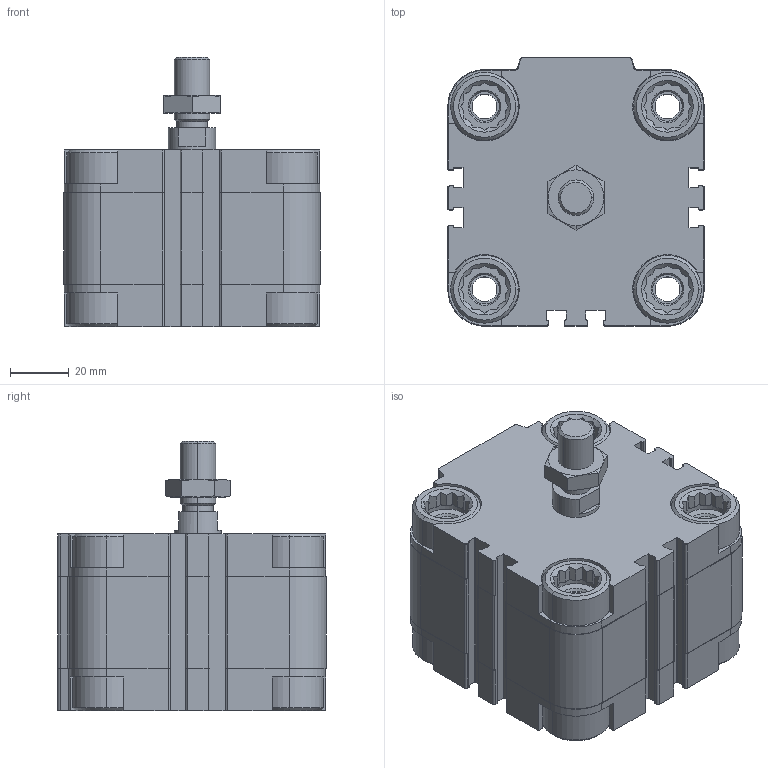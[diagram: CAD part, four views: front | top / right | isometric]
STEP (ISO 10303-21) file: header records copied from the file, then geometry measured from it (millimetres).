
FILE_DESCRIPTION (( 'STEP AP203' ), '1' );
FILE_NAME ('CDVU63-10.STEP', '2020-03-19T11:37:37', ( '' ), ( '' ), 'SwSTEP 2.0', 'SolidWorks 2019', '' );
FILE_SCHEMA (( 'CONFIG_CONTROL_DESIGN' ));
Length unit declared in the file: millimetre
Products named in the file (1): CDVU63-10
Bounding box: 87 x 91 x 91.5 mm (x, y, z)
Volume: 382720.9 mm3; surface area: 79358 mm2
Topology: 3 solids, 3 shells, 627 faces, 1672 edges, 1094 vertices
Faces by surface type: plane 373, cylinder 184, cone 70
Entity records: 20051 total; most frequent: CARTESIAN_POINT 4314, ORIENTED_EDGE 3336, DIRECTION 3172, EDGE_CURVE 1668, VERTEX_POINT 1094, AXIS2_PLACEMENT_3D 1080, VECTOR 1012, LINE 1012
